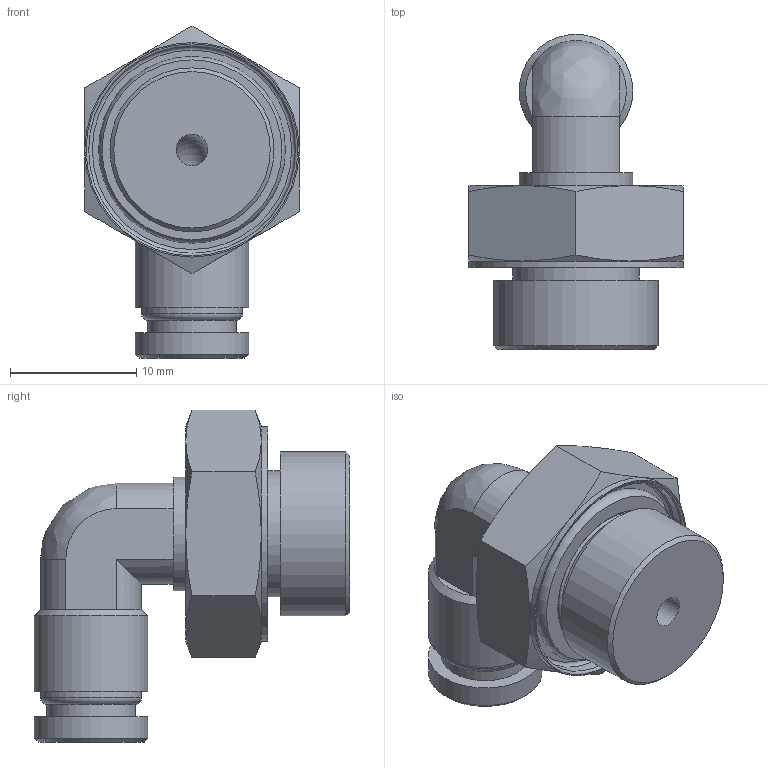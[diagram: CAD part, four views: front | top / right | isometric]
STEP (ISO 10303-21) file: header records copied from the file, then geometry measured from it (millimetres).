
FILE_DESCRIPTION(/* description */ (''),/* implementation_level */ '2;1');
FILE_NAME(/* name */ 'LXH28 0004 B2.stp',/* time_stamp */ '2026-04-30T13:09:19+02:00',/* author */ ('freju'),/* organization */ (''),/* preprocessor_version */ 'ST-DEVELOPER v20.1',/* originating_system */ 'Autodesk Inventor 2026',/* authorisation */ '');
FILE_SCHEMA (('AUTOMOTIVE_DESIGN { 1 0 10303 214 3 1 1 }'));
Length unit declared in the file: millimetre
Products named in the file (4): LXH28 0004 B2; LXH28 0004 B2_1; O-Ring; ISO 3601-1 - A 0112 G
Assembly tree (3 placements, depth 3):
  LXH28 0004 B2
    LXH28 0004 B2_1
    O-Ring
      ISO 3601-1 - A 0112 G
Bounding box: 17 x 25 x 26.32 mm (x, y, z)
Volume: 3311.4 mm3; surface area: 2533.5 mm2
Topology: 2 solids, 2 shells, 64 faces, 135 edges, 84 vertices
Faces by surface type: plane 23, cylinder 17, cone 15, torus 8, bspline 1
Full cylindrical faces by diameter (mm): 2.5 x2, 4 x1, 7 x1, 8 x1, 9 x3, 10 x1, 11.2 x1, 13 x1, 16.4 x1, 17 x1
Entity records: 1868 total; most frequent: CARTESIAN_POINT 352, DIRECTION 328, ORIENTED_EDGE 270, AXIS2_PLACEMENT_3D 147, EDGE_CURVE 135, VERTEX_POINT 84, EDGE_LOOP 77, CIRCLE 76
